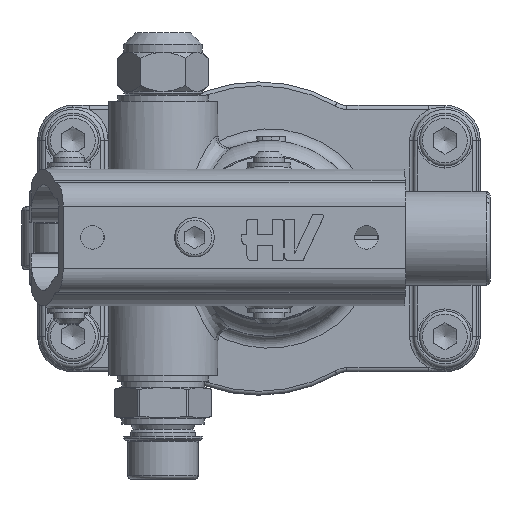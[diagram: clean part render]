
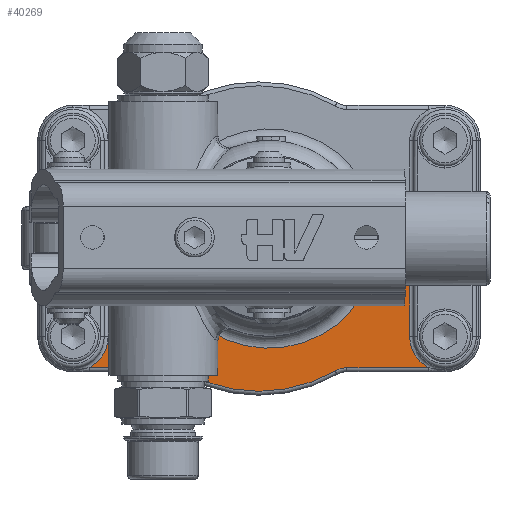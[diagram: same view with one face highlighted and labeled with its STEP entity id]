
A CAD part, top view. The second image highlights one B-rep face of the part: STEP entity #40269.
In plain terms, the highlighted planar face has unit normal (0, 0, 1).
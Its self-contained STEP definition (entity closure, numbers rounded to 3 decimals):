
#39549=CARTESIAN_POINT('',(23.,23.,6.));
#39550=VERTEX_POINT('',#39549);
#39575=CARTESIAN_POINT('',(23.,17.,6.));
#39576=VERTEX_POINT('',#39575);
#39577=CARTESIAN_POINT('',(23.,23.,6.));
#39578=DIRECTION('',(0.0,-1.0,0.0));
#39579=VECTOR('',#39578,6.);
#39580=LINE('',#39577,#39579);
#39581=EDGE_CURVE('',#39550,#39576,#39580,.T.);
#39613=CARTESIAN_POINT('',(84.957,23.5,6.));
#39614=VERTEX_POINT('',#39613);
#39622=CARTESIAN_POINT('',(95.,23.5,6.));
#39623=VERTEX_POINT('',#39622);
#39624=CARTESIAN_POINT('',(84.957,23.5,6.));
#39625=DIRECTION('',(1.0,0.0,0.0));
#39626=VECTOR('',#39625,10.043);
#39627=LINE('',#39624,#39626);
#39628=EDGE_CURVE('',#39614,#39623,#39627,.T.);
#39646=CARTESIAN_POINT('',(40.187,13.262,6.));
#39647=VERTEX_POINT('',#39646);
#39648=CARTESIAN_POINT('',(32.,17.,6.));
#39649=DIRECTION('',(0.0,0.0,1.0));
#39650=DIRECTION('',(-0.91,0.415,0.0));
#39651=AXIS2_PLACEMENT_3D('',#39648,#39649,#39650);
#39652=CIRCLE('',#39651,9.0);
#39653=EDGE_CURVE('',#39576,#39647,#39652,.T.);
#39706=CARTESIAN_POINT('',(59.,34.0,6.));
#39707=DIRECTION('',(0.0,0.0,1.0));
#39708=DIRECTION('',(0.231,0.973,0.0));
#39709=AXIS2_PLACEMENT_3D('',#39706,#39707,#39708);
#39710=CIRCLE('',#39709,28.);
#39711=EDGE_CURVE('',#39647,#39614,#39710,.T.);
#39935=CARTESIAN_POINT('',(18.,23.,6.));
#39936=VERTEX_POINT('',#39935);
#39944=CARTESIAN_POINT('',(18.,23.,6.));
#39945=DIRECTION('',(1.0,0.0,0.0));
#39946=VECTOR('',#39945,5.);
#39947=LINE('',#39944,#39946);
#39948=EDGE_CURVE('',#39936,#39550,#39947,.T.);
#40143=CARTESIAN_POINT('',(18.,9.,6.));
#40144=VERTEX_POINT('',#40143);
#40152=CARTESIAN_POINT('',(18.0,9.0,6.));
#40153=DIRECTION('',(0.0,1.0,0.0));
#40154=VECTOR('',#40153,14.);
#40155=LINE('',#40152,#40154);
#40156=EDGE_CURVE('',#40144,#39936,#40155,.T.);
#40166=CARTESIAN_POINT('',(13.123,1.,6.));
#40167=VERTEX_POINT('',#40166);
#40177=CARTESIAN_POINT('',(9.,9.0,6.));
#40178=DIRECTION('',(0.0,0.0,1.0));
#40179=DIRECTION('',(0.0,-1.0,0.0));
#40180=AXIS2_PLACEMENT_3D('',#40177,#40178,#40179);
#40181=CIRCLE('',#40180,9.0);
#40182=EDGE_CURVE('',#40167,#40144,#40181,.T.);
#40197=CARTESIAN_POINT('',(56.5,34.,6.));
#40198=DIRECTION('',(0.0,0.0,1.0));
#40199=DIRECTION('',(1.0,0.0,0.0));
#40200=AXIS2_PLACEMENT_3D('',#40197,#40198,#40199);
#40201=PLANE('',#40200);
#40202=CARTESIAN_POINT('',(99.877,1.,6.));
#40203=VERTEX_POINT('',#40202);
#40204=CARTESIAN_POINT('',(78.95,1.0,6.));
#40205=VERTEX_POINT('',#40204);
#40206=CARTESIAN_POINT('',(99.877,1.,6.));
#40207=DIRECTION('',(-1.0,0.0,0.0));
#40208=VECTOR('',#40207,20.927);
#40209=LINE('',#40206,#40208);
#40210=EDGE_CURVE('',#40203,#40205,#40209,.T.);
#40211=ORIENTED_EDGE('',*,*,#40210,.F.);
#40212=CARTESIAN_POINT('',(95.0,9.0,6.));
#40213=VERTEX_POINT('',#40212);
#40214=CARTESIAN_POINT('',(104.0,9.,6.));
#40215=DIRECTION('',(0.0,0.0,1.0));
#40216=DIRECTION('',(0.0,-1.0,0.0));
#40217=AXIS2_PLACEMENT_3D('',#40214,#40215,#40216);
#40218=CIRCLE('',#40217,9.0);
#40219=EDGE_CURVE('',#40213,#40203,#40218,.T.);
#40220=ORIENTED_EDGE('',*,*,#40219,.F.);
#40221=CARTESIAN_POINT('',(95.,23.5,6.));
#40222=DIRECTION('',(0.0,-1.0,0.0));
#40223=VECTOR('',#40222,14.5);
#40224=LINE('',#40221,#40223);
#40225=EDGE_CURVE('',#39623,#40213,#40224,.T.);
#40226=ORIENTED_EDGE('',*,*,#40225,.F.);
#40227=ORIENTED_EDGE('',*,*,#39628,.F.);
#40228=ORIENTED_EDGE('',*,*,#39711,.F.);
#40229=ORIENTED_EDGE('',*,*,#39653,.F.);
#40230=ORIENTED_EDGE('',*,*,#39581,.F.);
#40231=ORIENTED_EDGE('',*,*,#39948,.F.);
#40232=ORIENTED_EDGE('',*,*,#40156,.F.);
#40233=ORIENTED_EDGE('',*,*,#40182,.F.);
#40234=CARTESIAN_POINT('',(34.05,1.,6.));
#40235=VERTEX_POINT('',#40234);
#40236=CARTESIAN_POINT('',(34.05,1.,6.));
#40237=DIRECTION('',(-1.0,0.0,0.0));
#40238=VECTOR('',#40237,20.927);
#40239=LINE('',#40236,#40238);
#40240=EDGE_CURVE('',#40235,#40167,#40239,.T.);
#40241=ORIENTED_EDGE('',*,*,#40240,.F.);
#40242=CARTESIAN_POINT('',(37.043,0.2,6.));
#40243=VERTEX_POINT('',#40242);
#40244=CARTESIAN_POINT('',(34.05,-5.0,6.));
#40245=DIRECTION('',(0.0,0.0,1.0));
#40246=DIRECTION('',(0.258,0.966,0.0));
#40247=AXIS2_PLACEMENT_3D('',#40244,#40245,#40246);
#40248=CIRCLE('',#40247,6.0);
#40249=EDGE_CURVE('',#40243,#40235,#40248,.T.);
#40250=ORIENTED_EDGE('',*,*,#40249,.F.);
#40251=CARTESIAN_POINT('',(75.957,0.2,6.));
#40252=VERTEX_POINT('',#40251);
#40253=CARTESIAN_POINT('',(56.5,34.0,6.));
#40254=DIRECTION('',(0.0,0.0,-1.0));
#40255=DIRECTION('',(0.0,-1.0,0.0));
#40256=AXIS2_PLACEMENT_3D('',#40253,#40254,#40255);
#40257=CIRCLE('',#40256,39.0);
#40258=EDGE_CURVE('',#40252,#40243,#40257,.T.);
#40259=ORIENTED_EDGE('',*,*,#40258,.F.);
#40260=CARTESIAN_POINT('',(78.95,-5.0,6.));
#40261=DIRECTION('',(0.0,0.0,1.0));
#40262=DIRECTION('',(-0.258,0.966,0.0));
#40263=AXIS2_PLACEMENT_3D('',#40260,#40261,#40262);
#40264=CIRCLE('',#40263,6.);
#40265=EDGE_CURVE('',#40205,#40252,#40264,.T.);
#40266=ORIENTED_EDGE('',*,*,#40265,.F.);
#40267=EDGE_LOOP('',(#40211,#40220,#40226,#40227,#40228,#40229,#40230,#40231,#40232,#40233,#40241,#40250,#40259,#40266));
#40268=FACE_OUTER_BOUND('',#40267,.T.);
#40269=ADVANCED_FACE('',(#40268),#40201,.T.);
